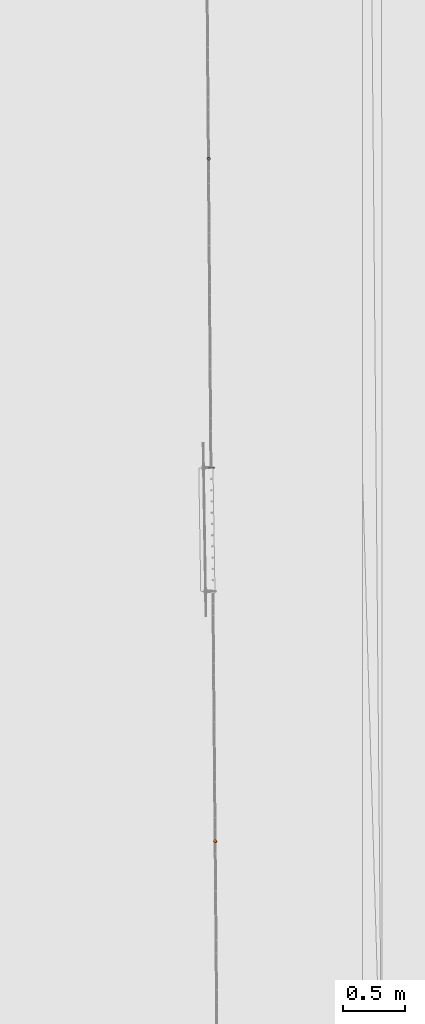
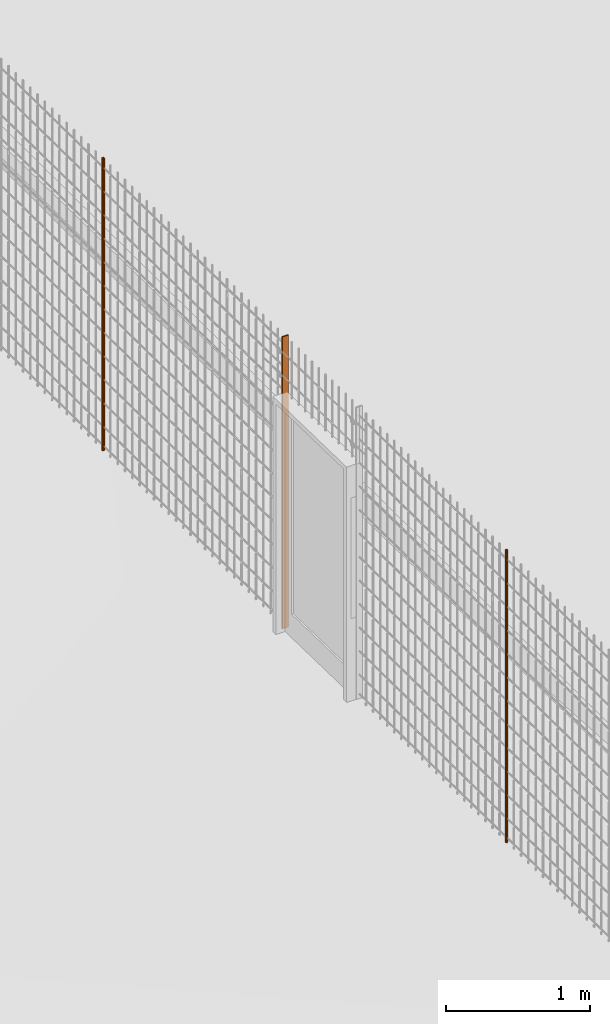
# One storey, part 20 of 1809: 3 proxies, 1 element without a shape of its own.
"""IFC2X3 building model written with IfcOpenShell, lengths in millimetres."""

from ifc_helpers import new_model, entity, si_unit, converted_unit, derived_unit, money_unit, direction, frame, origin_with_axes, place, context, subcontext, project, spatial, faceted_brep, source, transform, mapped, material, type_object, element, aggregate, save


model = new_model("IFC2X3")

# Units and contexts
model_context = context("Model", 3, precision=0.01, world=origin_with_axes(), true_north=direction((0.0, 1.0)))
body_context = subcontext(model_context, "Body", "Model", "MODEL_VIEW")
ifc_project = project(units=[si_unit("LENGTHUNIT", "METRE", prefix="MILLI"), si_unit("AREAUNIT", "SQUARE_METRE"), si_unit("VOLUMEUNIT", "CUBIC_METRE"), converted_unit("PLANEANGLEUNIT", "DEGREE", entity("IfcPlaneAngleMeasure", 0.0174532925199), si_unit("PLANEANGLEUNIT", "RADIAN"), dimensions=[0, 0, 0, 0, 0, 0, 0]), si_unit("SOLIDANGLEUNIT", "STERADIAN"), money_unit("EUR"), converted_unit("TIMEUNIT", "Year", entity("IfcTimeMeasure", 31556926.0), si_unit("TIMEUNIT", "SECOND"), dimensions=[0, 0, 1, 0, 0, 0, 0]), si_unit("MASSUNIT", "GRAM", prefix="KILO"), si_unit("THERMODYNAMICTEMPERATUREUNIT", "DEGREE_CELSIUS"), si_unit("LUMINOUSINTENSITYUNIT", "LUMEN"), si_unit("ENERGYUNIT", "JOULE", prefix="MEGA"), derived_unit("THERMALCONDUCTANCEUNIT", [(si_unit("POWERUNIT", "WATT"), 1), (si_unit("LENGTHUNIT", "METRE"), -1), (si_unit("THERMODYNAMICTEMPERATUREUNIT", "KELVIN"), -1)]), derived_unit("SPECIFICHEATCAPACITYUNIT", [(si_unit("ENERGYUNIT", "JOULE"), 1), (si_unit("MASSUNIT", "GRAM", prefix="KILO"), -1), (si_unit("THERMODYNAMICTEMPERATUREUNIT", "KELVIN"), -1)]), derived_unit("MASSDENSITYUNIT", [(si_unit("MASSUNIT", "GRAM", prefix="KILO"), 1), (si_unit("VOLUMEUNIT", "CUBIC_METRE"), -1)])], contexts=[model_context])

# Site, building, storey
site_placement = place(None, origin_with_axes())
site = spatial("IfcSite", under=ifc_project, at=site_placement, Name="Politse- ja Piirivalveameti ning Päästeameti ühishoone", CompositionType="ELEMENT")
building_placement = place(site_placement, origin_with_axes())
building = spatial("IfcBuilding", under=site, at=building_placement, Name="Politse- ja Piirivalveameti ning Päästeameti ühishoone", CompositionType="ELEMENT")
storey_placement = place(building_placement, origin_with_axes())
storey = spatial("IfcBuildingStorey", under=building, at=storey_placement, Name="Esimene korrus", CompositionType="ELEMENT", Elevation=0.0)

# Proxies
building_element_proxy_type_1 = type_object("IfcBuildingElementProxyType", Name="Railing Type", PredefinedType="NOTDEFINED")
proxy_1_placement = place(storey_placement, frame((-16775.8601056, 25156.7555964, 0.0), z_axis=(0.0, 0.0, 1.0), x_axis=(1.0, 0.0, 0.0)))
proxy_1 = element("IfcBuildingElementProxy", 1, at=proxy_1_placement, inside=storey, type_object=building_element_proxy_type_1, Name="KENNELI PIIRE")
ifc_material = material(Name="Teras - Konstruktsioon")
building_element_proxy_type_2 = type_object("IfcBuildingElementProxyType", Name="IfcBuildingElementProxy", PredefinedType="NOTDEFINED")
shared_shape_1 = source(origin_with_axes(), body_context, "Body", "Brep", [
    faceted_brep([(25.0, 5.0, 0.0), (-25.0, 5.0, 0.0), (-25.0, 4.99999999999, 2480.0), (25.0, 4.99999999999, 2480.0), (25.0, -5.0, 0.0), (-25.0, -5.0, 0.0), (-25.0, -5.00000000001, 2480.0), (25.0, -5.00000000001, 2480.0)], [[[0, 1, 2, 3]], [[0, 4, 5, 1]], [[1, 5, 6, 2]], [[3, 2, 6, 7]], [[4, 0, 3, 7]], [[5, 4, 7, 6]]]),
])
proxy_2_placement = place(proxy_1_placement, frame((89.390879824, -8047.37050592, 0.0), z_axis=(0.0, 0.0, 1.0), x_axis=(1.0, 0.0, 0.0)))
proxy_2 = element("IfcBuildingElementProxy", 2, at=proxy_2_placement, type_object=building_element_proxy_type_2, material=ifc_material, Name="PIIRDE POST - 001", context=body_context, shape_type="MappedRepresentation", body=[
    mapped(shared_shape_1, transform((0.0, 0.0, 0.0), x_axis=(0.999967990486, 0.00800112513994, 0.0), y_axis=(-0.00800112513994, 0.999967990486, 0.0), z_axis=(0.0, 0.0, 1.0))),
])
shared_shape_2 = source(origin_with_axes(), body_context, "Body", "Brep", [
    faceted_brep([(0.0, -12.0, 0.0), (2.083778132, -11.8176930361, 0.0), (2.08377813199, -11.8176930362, 2480.0), (0.0, -12.0, 2480.0), (-2.083778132, -11.8176930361, 0.0), (-4.10424171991, -11.2763114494, 0.0), (-6.0, -10.3923048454, 0.0), (-7.71345131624, -9.19253331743, 0.0), (-9.19253331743, -7.71345131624, 0.0), (-10.3923048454, -6.0, 0.0), (-11.2763114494, -4.10424171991, 0.0), (-11.8176930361, -2.083778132, 0.0), (-12.0, 0.0, 0.0), (-11.8176930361, 2.083778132, 0.0), (-11.2763114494, 4.10424171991, 0.0), (-10.3923048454, 6.0, 0.0), (-9.19253331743, 7.71345131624, 0.0), (-7.71345131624, 9.19253331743, 0.0), (-6.0, 10.3923048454, 0.0), (-4.10424171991, 11.2763114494, 0.0), (-2.083778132, 11.8176930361, 0.0), (0.0, 12.0, 0.0), (2.083778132, 11.8176930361, 0.0), (4.10424171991, 11.2763114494, 0.0), (6.0, 10.3923048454, 0.0), (7.71345131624, 9.19253331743, 0.0), (9.19253331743, 7.71345131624, 0.0), (10.3923048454, 6.0, 0.0), (11.2763114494, 4.10424171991, 0.0), (11.8176930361, 2.083778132, 0.0), (12.0, 0.0, 0.0), (11.8176930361, -2.083778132, 0.0), (11.2763114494, -4.10424171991, 0.0), (10.3923048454, -6.0, 0.0), (9.19253331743, -7.71345131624, 0.0), (7.71345131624, -9.19253331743, 0.0), (6.0, -10.3923048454, 0.0), (4.10424171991, -11.2763114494, 0.0), (0.0, -7.0, 0.0), (1.21553724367, -6.89365427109, 0.0), (2.39414100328, -6.5778483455, 0.0), (3.5, -6.06217782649, 0.0), (4.49951326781, -5.36231110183, 0.0), (5.36231110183, -4.49951326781, 0.0), (6.06217782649, -3.5, 0.0), (6.5778483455, -2.39414100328, 0.0), (6.89365427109, -1.21553724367, 0.0), (7.0, 0.0, 0.0), (6.89365427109, 1.21553724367, 0.0), (6.5778483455, 2.39414100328, 0.0), (6.06217782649, 3.5, 0.0), (5.36231110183, 4.49951326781, 0.0), (4.49951326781, 5.36231110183, 0.0), (3.5, 6.06217782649, 0.0), (2.39414100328, 6.5778483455, 0.0), (1.21553724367, 6.89365427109, 0.0), (0.0, 7.0, 0.0), (-1.21553724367, 6.89365427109, 0.0), (-2.39414100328, 6.5778483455, 0.0), (-3.5, 6.06217782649, 0.0), (-4.49951326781, 5.36231110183, 0.0), (-5.36231110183, 4.49951326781, 0.0), (-6.06217782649, 3.5, 0.0), (-6.5778483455, 2.39414100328, 0.0), (-6.89365427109, 1.21553724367, 0.0), (-7.0, 0.0, 0.0), (-6.89365427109, -1.21553724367, 0.0), (-6.5778483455, -2.39414100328, 0.0), (-6.06217782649, -3.5, 0.0), (-5.36231110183, -4.49951326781, 0.0), (-4.49951326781, -5.36231110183, 0.0), (-3.5, -6.06217782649, 0.0), (-2.39414100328, -6.5778483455, 0.0), (-1.21553724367, -6.89365427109, 0.0), (4.1042417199, -11.2763114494, 2480.0), (5.99999999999, -10.3923048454, 2480.0), (7.71345131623, -9.19253331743, 2480.0), (9.19253331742, -7.71345131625, 2480.0), (10.3923048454, -6.00000000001, 2480.0), (11.2763114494, -4.10424171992, 2480.0), (11.8176930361, -2.08377813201, 2480.0), (12.0, 0.0, 2480.0), (11.8176930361, 2.083778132, 2480.0), (11.2763114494, 4.1042417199, 2480.0), (10.3923048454, 5.99999999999, 2480.0), (9.19253331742, 7.71345131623, 2480.0), (7.71345131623, 9.19253331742, 2480.0), (5.99999999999, 10.3923048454, 2480.0), (4.1042417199, 11.2763114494, 2480.0), (2.08377813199, 11.8176930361, 2480.0), (0.0, 12.0, 2480.0), (-2.08377813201, 11.8176930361, 2480.0), (-4.10424171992, 11.2763114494, 2480.0), (-6.00000000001, 10.3923048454, 2480.0), (-7.71345131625, 9.19253331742, 2480.0), (-9.19253331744, 7.71345131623, 2480.0), (-10.3923048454, 5.99999999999, 2480.0), (-11.2763114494, 4.1042417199, 2480.0), (-11.8176930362, 2.083778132, 2480.0), (-12.0, 0.0, 2480.0), (-11.8176930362, -2.08377813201, 2480.0), (-11.2763114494, -4.10424171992, 2480.0), (-10.3923048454, -6.00000000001, 2480.0), (-9.19253331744, -7.71345131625, 2480.0), (-7.71345131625, -9.19253331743, 2480.0), (-6.00000000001, -10.3923048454, 2480.0), (-4.10424171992, -11.2763114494, 2480.0), (-2.08377813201, -11.8176930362, 2480.0), (0.0, -7.00000000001, 2480.0), (-1.21553724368, -6.89365427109, 2480.0), (-2.39414100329, -6.57784834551, 2480.0), (-3.50000000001, -6.0621778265, 2480.0), (-4.49951326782, -5.36231110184, 2480.0), (-5.36231110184, -4.49951326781, 2480.0), (-6.0621778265, -3.50000000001, 2480.0), (-6.57784834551, -2.39414100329, 2480.0), (-6.8936542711, -1.21553724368, 2480.0), (-7.00000000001, 0.0, 2480.0), (-6.8936542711, 1.21553724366, 2480.0), (-6.57784834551, 2.39414100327, 2480.0), (-6.0621778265, 3.49999999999, 2480.0), (-5.36231110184, 4.4995132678, 2480.0), (-4.49951326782, 5.36231110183, 2480.0), (-3.50000000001, 6.06217782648, 2480.0), (-2.39414100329, 6.57784834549, 2480.0), (-1.21553724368, 6.89365427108, 2480.0), (0.0, 6.99999999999, 2480.0), (1.21553724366, 6.89365427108, 2480.0), (2.39414100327, 6.57784834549, 2480.0), (3.49999999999, 6.06217782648, 2480.0), (4.49951326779, 5.36231110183, 2480.0), (5.36231110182, 4.4995132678, 2480.0), (6.06217782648, 3.49999999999, 2480.0), (6.57784834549, 2.39414100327, 2480.0), (6.89365427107, 1.21553724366, 2480.0), (6.99999999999, 0.0, 2480.0), (6.89365427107, -1.21553724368, 2480.0), (6.57784834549, -2.39414100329, 2480.0), (6.06217782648, -3.50000000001, 2480.0), (5.36231110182, -4.49951326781, 2480.0), (4.49951326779, -5.36231110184, 2480.0), (3.49999999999, -6.0621778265, 2480.0), (2.39414100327, -6.57784834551, 2480.0), (1.21553724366, -6.89365427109, 2480.0)], [[[0, 1, 2, 3]], [[0, 4, 5, 6, 7, 8, 9, 10, 11, 12, 13, 14, 15, 16, 17, 18, 19, 20, 21, 22, 23, 24, 25, 26, 27, 28, 29, 30, 31, 32, 33, 34, 35, 36, 37, 1], [38, 39, 40, 41, 42, 43, 44, 45, 46, 47, 48, 49, 50, 51, 52, 53, 54, 55, 56, 57, 58, 59, 60, 61, 62, 63, 64, 65, 66, 67, 68, 69, 70, 71, 72, 73]], [[1, 37, 74, 2]], [[3, 2, 74, 75, 76, 77, 78, 79, 80, 81, 82, 83, 84, 85, 86, 87, 88, 89, 90, 91, 92, 93, 94, 95, 96, 97, 98, 99, 100, 101, 102, 103, 104, 105, 106, 107], [108, 109, 110, 111, 112, 113, 114, 115, 116, 117, 118, 119, 120, 121, 122, 123, 124, 125, 126, 127, 128, 129, 130, 131, 132, 133, 134, 135, 136, 137, 138, 139, 140, 141, 142, 143]], [[4, 0, 3, 107]], [[5, 4, 107, 106]], [[6, 5, 106, 105]], [[7, 6, 105, 104]], [[8, 7, 104, 103]], [[9, 8, 103, 102]], [[10, 9, 102, 101]], [[11, 10, 101, 100]], [[12, 11, 100, 99]], [[13, 12, 99, 98]], [[14, 13, 98, 97]], [[15, 14, 97, 96]], [[16, 15, 96, 95]], [[17, 16, 95, 94]], [[18, 17, 94, 93]], [[19, 18, 93, 92]], [[20, 19, 92, 91]], [[21, 20, 91, 90]], [[22, 21, 90, 89]], [[23, 22, 89, 88]], [[24, 23, 88, 87]], [[25, 24, 87, 86]], [[26, 25, 86, 85]], [[27, 26, 85, 84]], [[28, 27, 84, 83]], [[29, 28, 83, 82]], [[30, 29, 82, 81]], [[31, 30, 81, 80]], [[32, 31, 80, 79]], [[33, 32, 79, 78]], [[34, 33, 78, 77]], [[35, 34, 77, 76]], [[36, 35, 76, 75]], [[37, 36, 75, 74]], [[39, 38, 108, 143]], [[40, 39, 143, 142]], [[41, 40, 142, 141]], [[42, 41, 141, 140]], [[43, 42, 140, 139]], [[44, 43, 139, 138]], [[45, 44, 138, 137]], [[46, 45, 137, 136]], [[47, 46, 136, 135]], [[48, 47, 135, 134]], [[49, 48, 134, 133]], [[50, 49, 133, 132]], [[51, 50, 132, 131]], [[52, 51, 131, 130]], [[53, 52, 130, 129]], [[54, 53, 129, 128]], [[55, 54, 128, 127]], [[56, 55, 127, 126]], [[57, 56, 126, 125]], [[58, 57, 125, 124]], [[59, 58, 124, 123]], [[60, 59, 123, 122]], [[61, 60, 122, 121]], [[62, 61, 121, 120]], [[63, 62, 120, 119]], [[64, 63, 119, 118]], [[65, 64, 118, 117]], [[66, 65, 117, 116]], [[67, 66, 116, 115]], [[68, 67, 115, 114]], [[69, 68, 114, 113]], [[70, 69, 113, 112]], [[71, 70, 112, 111]], [[72, 71, 111, 110]], [[73, 72, 110, 109]], [[38, 73, 109, 108]]]),
])
proxy_3_placement = place(proxy_1_placement, frame((69.3880669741, -5547.45052971, 0.0), z_axis=(0.0, 0.0, 1.0), x_axis=(1.0, 0.0, 0.0)))
proxy_3 = element("IfcBuildingElementProxy", 3, at=proxy_3_placement, type_object=building_element_proxy_type_2, material=ifc_material, Name="SISEPOST - 001", context=body_context, shape_type="MappedRepresentation", body=[
    mapped(shared_shape_2, transform((0.0, 0.0, 0.0), x_axis=(0.999967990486, 0.00800112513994, 0.0), y_axis=(-0.00800112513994, 0.999967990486, 0.0), z_axis=(0.0, 0.0, 1.0))),
])
shared_shape_3 = source(origin_with_axes(), body_context, "Body", "Brep", [
    faceted_brep([(0.0, -12.0, 0.0), (2.083778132, -11.8176930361, 0.0), (2.083778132, -11.8176930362, 2480.0), (0.0, -12.0, 2480.0), (-2.083778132, -11.8176930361, 0.0), (-4.10424171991, -11.2763114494, 0.0), (-6.0, -10.3923048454, 0.0), (-7.71345131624, -9.19253331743, 0.0), (-9.19253331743, -7.71345131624, 0.0), (-10.3923048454, -6.0, 0.0), (-11.2763114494, -4.10424171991, 0.0), (-11.8176930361, -2.083778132, 0.0), (-12.0, 0.0, 0.0), (-11.8176930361, 2.083778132, 0.0), (-11.2763114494, 4.10424171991, 0.0), (-10.3923048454, 6.0, 0.0), (-9.19253331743, 7.71345131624, 0.0), (-7.71345131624, 9.19253331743, 0.0), (-6.0, 10.3923048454, 0.0), (-4.10424171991, 11.2763114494, 0.0), (-2.083778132, 11.8176930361, 0.0), (0.0, 12.0, 0.0), (2.083778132, 11.8176930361, 0.0), (4.10424171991, 11.2763114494, 0.0), (6.0, 10.3923048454, 0.0), (7.71345131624, 9.19253331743, 0.0), (9.19253331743, 7.71345131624, 0.0), (10.3923048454, 6.0, 0.0), (11.2763114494, 4.10424171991, 0.0), (11.8176930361, 2.083778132, 0.0), (12.0, 0.0, 0.0), (11.8176930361, -2.083778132, 0.0), (11.2763114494, -4.10424171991, 0.0), (10.3923048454, -6.0, 0.0), (9.19253331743, -7.71345131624, 0.0), (7.71345131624, -9.19253331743, 0.0), (6.0, -10.3923048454, 0.0), (4.10424171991, -11.2763114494, 0.0), (0.0, -7.0, 0.0), (1.21553724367, -6.89365427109, 0.0), (2.39414100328, -6.5778483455, 0.0), (3.5, -6.06217782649, 0.0), (4.49951326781, -5.36231110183, 0.0), (5.36231110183, -4.49951326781, 0.0), (6.06217782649, -3.5, 0.0), (6.5778483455, -2.39414100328, 0.0), (6.89365427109, -1.21553724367, 0.0), (7.0, 0.0, 0.0), (6.89365427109, 1.21553724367, 0.0), (6.5778483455, 2.39414100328, 0.0), (6.06217782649, 3.5, 0.0), (5.36231110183, 4.49951326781, 0.0), (4.49951326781, 5.36231110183, 0.0), (3.5, 6.06217782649, 0.0), (2.39414100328, 6.5778483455, 0.0), (1.21553724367, 6.89365427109, 0.0), (0.0, 7.0, 0.0), (-1.21553724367, 6.89365427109, 0.0), (-2.39414100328, 6.5778483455, 0.0), (-3.5, 6.06217782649, 0.0), (-4.49951326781, 5.36231110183, 0.0), (-5.36231110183, 4.49951326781, 0.0), (-6.06217782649, 3.5, 0.0), (-6.5778483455, 2.39414100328, 0.0), (-6.89365427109, 1.21553724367, 0.0), (-7.0, 0.0, 0.0), (-6.89365427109, -1.21553724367, 0.0), (-6.5778483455, -2.39414100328, 0.0), (-6.06217782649, -3.5, 0.0), (-5.36231110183, -4.49951326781, 0.0), (-4.49951326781, -5.36231110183, 0.0), (-3.5, -6.06217782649, 0.0), (-2.39414100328, -6.5778483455, 0.0), (-1.21553724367, -6.89365427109, 0.0), (4.1042417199, -11.2763114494, 2480.0), (5.99999999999, -10.3923048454, 2480.0), (7.71345131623, -9.19253331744, 2480.0), (9.19253331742, -7.71345131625, 2480.0), (10.3923048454, -6.00000000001, 2480.0), (11.2763114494, -4.10424171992, 2480.0), (11.8176930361, -2.08377813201, 2480.0), (12.0, 0.0, 2480.0), (11.8176930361, 2.08377813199, 2480.0), (11.2763114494, 4.1042417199, 2480.0), (10.3923048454, 5.99999999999, 2480.0), (9.19253331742, 7.71345131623, 2480.0), (7.71345131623, 9.19253331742, 2480.0), (5.99999999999, 10.3923048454, 2480.0), (4.1042417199, 11.2763114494, 2480.0), (2.083778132, 11.8176930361, 2480.0), (0.0, 12.0, 2480.0), (-2.08377813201, 11.8176930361, 2480.0), (-4.10424171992, 11.2763114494, 2480.0), (-6.00000000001, 10.3923048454, 2480.0), (-7.71345131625, 9.19253331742, 2480.0), (-9.19253331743, 7.71345131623, 2480.0), (-10.3923048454, 5.99999999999, 2480.0), (-11.2763114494, 4.1042417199, 2480.0), (-11.8176930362, 2.08377813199, 2480.0), (-12.0, 0.0, 2480.0), (-11.8176930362, -2.08377813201, 2480.0), (-11.2763114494, -4.10424171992, 2480.0), (-10.3923048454, -6.00000000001, 2480.0), (-9.19253331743, -7.71345131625, 2480.0), (-7.71345131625, -9.19253331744, 2480.0), (-6.00000000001, -10.3923048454, 2480.0), (-4.10424171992, -11.2763114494, 2480.0), (-2.08377813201, -11.8176930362, 2480.0), (0.0, -7.00000000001, 2480.0), (-1.21553724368, -6.89365427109, 2480.0), (-2.39414100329, -6.57784834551, 2480.0), (-3.50000000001, -6.0621778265, 2480.0), (-4.49951326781, -5.36231110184, 2480.0), (-5.36231110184, -4.49951326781, 2480.0), (-6.0621778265, -3.50000000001, 2480.0), (-6.57784834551, -2.39414100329, 2480.0), (-6.89365427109, -1.21553724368, 2480.0), (-7.00000000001, 0.0, 2480.0), (-6.89365427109, 1.21553724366, 2480.0), (-6.57784834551, 2.39414100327, 2480.0), (-6.0621778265, 3.49999999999, 2480.0), (-5.36231110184, 4.4995132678, 2480.0), (-4.49951326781, 5.36231110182, 2480.0), (-3.50000000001, 6.06217782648, 2480.0), (-2.39414100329, 6.57784834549, 2480.0), (-1.21553724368, 6.89365427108, 2480.0), (0.0, 6.99999999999, 2480.0), (1.21553724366, 6.89365427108, 2480.0), (2.39414100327, 6.57784834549, 2480.0), (3.49999999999, 6.06217782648, 2480.0), (4.4995132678, 5.36231110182, 2480.0), (5.36231110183, 4.4995132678, 2480.0), (6.06217782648, 3.49999999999, 2480.0), (6.57784834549, 2.39414100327, 2480.0), (6.89365427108, 1.21553724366, 2480.0), (6.99999999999, 0.0, 2480.0), (6.89365427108, -1.21553724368, 2480.0), (6.57784834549, -2.39414100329, 2480.0), (6.06217782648, -3.50000000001, 2480.0), (5.36231110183, -4.49951326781, 2480.0), (4.4995132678, -5.36231110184, 2480.0), (3.49999999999, -6.0621778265, 2480.0), (2.39414100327, -6.57784834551, 2480.0), (1.21553724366, -6.89365427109, 2480.0)], [[[0, 1, 2, 3]], [[0, 4, 5, 6, 7, 8, 9, 10, 11, 12, 13, 14, 15, 16, 17, 18, 19, 20, 21, 22, 23, 24, 25, 26, 27, 28, 29, 30, 31, 32, 33, 34, 35, 36, 37, 1], [38, 39, 40, 41, 42, 43, 44, 45, 46, 47, 48, 49, 50, 51, 52, 53, 54, 55, 56, 57, 58, 59, 60, 61, 62, 63, 64, 65, 66, 67, 68, 69, 70, 71, 72, 73]], [[1, 37, 74, 2]], [[3, 2, 74, 75, 76, 77, 78, 79, 80, 81, 82, 83, 84, 85, 86, 87, 88, 89, 90, 91, 92, 93, 94, 95, 96, 97, 98, 99, 100, 101, 102, 103, 104, 105, 106, 107], [108, 109, 110, 111, 112, 113, 114, 115, 116, 117, 118, 119, 120, 121, 122, 123, 124, 125, 126, 127, 128, 129, 130, 131, 132, 133, 134, 135, 136, 137, 138, 139, 140, 141, 142, 143]], [[4, 0, 3, 107]], [[5, 4, 107, 106]], [[6, 5, 106, 105]], [[7, 6, 105, 104]], [[8, 7, 104, 103]], [[9, 8, 103, 102]], [[10, 9, 102, 101]], [[11, 10, 101, 100]], [[12, 11, 100, 99]], [[13, 12, 99, 98]], [[14, 13, 98, 97]], [[15, 14, 97, 96]], [[16, 15, 96, 95]], [[17, 16, 95, 94]], [[18, 17, 94, 93]], [[19, 18, 93, 92]], [[20, 19, 92, 91]], [[21, 20, 91, 90]], [[22, 21, 90, 89]], [[23, 22, 89, 88]], [[24, 23, 88, 87]], [[25, 24, 87, 86]], [[26, 25, 86, 85]], [[27, 26, 85, 84]], [[28, 27, 84, 83]], [[29, 28, 83, 82]], [[30, 29, 82, 81]], [[31, 30, 81, 80]], [[32, 31, 80, 79]], [[33, 32, 79, 78]], [[34, 33, 78, 77]], [[35, 34, 77, 76]], [[36, 35, 76, 75]], [[37, 36, 75, 74]], [[39, 38, 108, 143]], [[40, 39, 143, 142]], [[41, 40, 142, 141]], [[42, 41, 141, 140]], [[43, 42, 140, 139]], [[44, 43, 139, 138]], [[45, 44, 138, 137]], [[46, 45, 137, 136]], [[47, 46, 136, 135]], [[48, 47, 135, 134]], [[49, 48, 134, 133]], [[50, 49, 133, 132]], [[51, 50, 132, 131]], [[52, 51, 131, 130]], [[53, 52, 130, 129]], [[54, 53, 129, 128]], [[55, 54, 128, 127]], [[56, 55, 127, 126]], [[57, 56, 126, 125]], [[58, 57, 125, 124]], [[59, 58, 124, 123]], [[60, 59, 123, 122]], [[61, 60, 122, 121]], [[62, 61, 121, 120]], [[63, 62, 120, 119]], [[64, 63, 119, 118]], [[65, 64, 118, 117]], [[66, 65, 117, 116]], [[67, 66, 116, 115]], [[68, 67, 115, 114]], [[69, 68, 114, 113]], [[70, 69, 113, 112]], [[71, 70, 112, 111]], [[72, 71, 111, 110]], [[73, 72, 110, 109]], [[38, 73, 109, 108]]]),
])
proxy_4_placement = place(proxy_1_placement, frame((123.460015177, -11069.0380704, 0.0), z_axis=(0.0, 0.0, 1.0), x_axis=(1.0, 0.0, 0.0)))
proxy_4 = element("IfcBuildingElementProxy", 4, at=proxy_4_placement, type_object=building_element_proxy_type_2, material=ifc_material, Name="SISEPOST - 001", context=body_context, shape_type="MappedRepresentation", body=[
    mapped(shared_shape_3, transform((0.0, 0.0, 0.0), x_axis=(0.999960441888, 0.00889464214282, 0.0), y_axis=(-0.00889464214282, 0.999960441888, 0.0), z_axis=(0.0, 0.0, 1.0))),
])
aggregate(proxy_1, [proxy_2, proxy_3, proxy_4])

save(model, "model.ifc")
